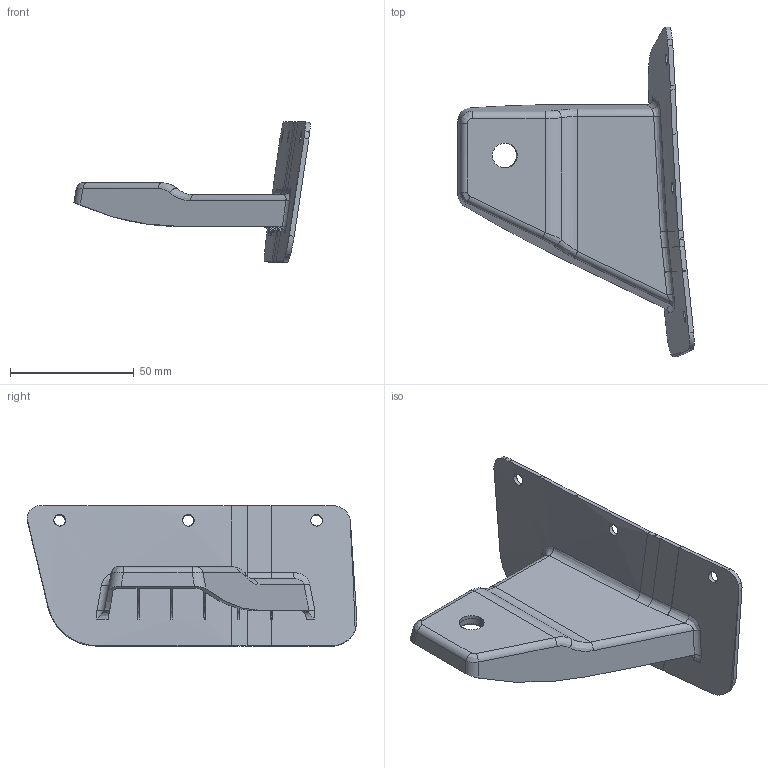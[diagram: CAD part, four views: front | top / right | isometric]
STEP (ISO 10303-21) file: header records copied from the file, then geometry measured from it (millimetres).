
FILE_DESCRIPTION(/* description */ (''),/* implementation_level */ '2;1');
FILE_NAME(/* name */ '767483010R_KIT-RR RH WHL SHIELD_stp.stp',/* time_stamp */ '2026-07-17T15:30:40+08:00',/* author */ (''),/* organization */ (''),/* preprocessor_version */ 'ST-DEVELOPER v16.7',/* originating_system */ 'SIEMENS PLM Software NX 12.0',/* authorisation */ '');
FILE_SCHEMA (('AUTOMOTIVE_DESIGN { 1 0 10303 214 3 1 1 1 }'));
Length unit declared in the file: millimetre
Products named in the file (1): admi85D0E95Fb4q5
Bounding box: 95.66 x 133.49 x 56.81 mm (x, y, z)
Volume: 30375.7 mm3; surface area: 33119.9 mm2
Topology: 1 solids, 1 shells, 217 faces, 680 edges, 466 vertices
Faces by surface type: bspline 104, plane 69, cylinder 38, extrusion 6
Entity records: 11709 total; most frequent: CARTESIAN_POINT 6714, ORIENTED_EDGE 1352, EDGE_CURVE 676, DIRECTION 478, VERTEX_POINT 464, B_SPLINE_CURVE_WITH_KNOTS 430, EDGE_LOOP 228, ADVANCED_FACE 217
